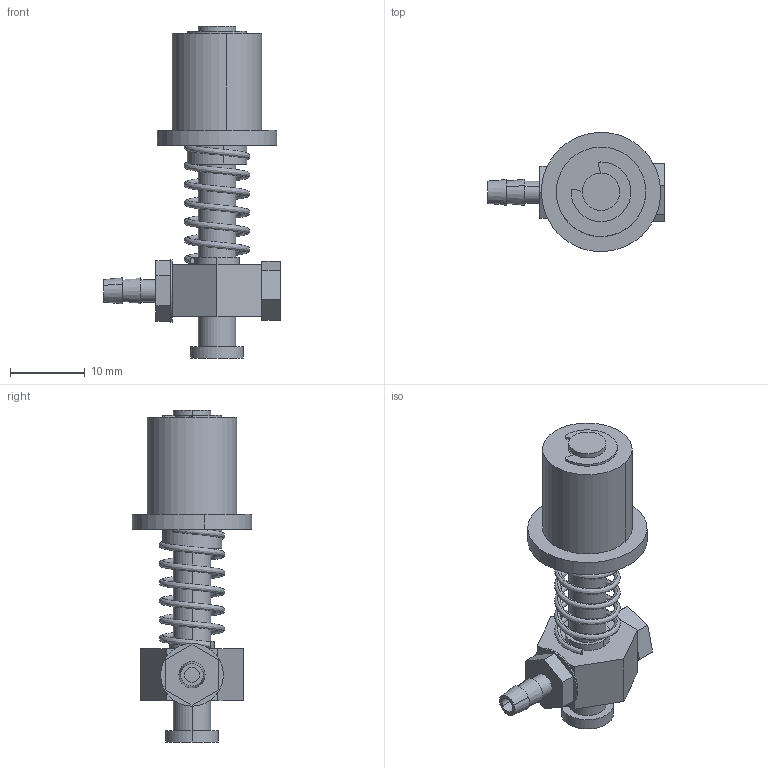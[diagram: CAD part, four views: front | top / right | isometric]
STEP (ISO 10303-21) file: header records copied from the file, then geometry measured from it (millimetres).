
FILE_DESCRIPTION (( 'STEP AP214' ), '1' );
FILE_NAME ('VFS-1012.STEP', '2019-11-16T00:45:51', ( '微软用户' ), ( '微软中国' ), 'SwSTEP 2.0', 'SolidWorks 2016', '' );
FILE_SCHEMA (( 'AUTOMOTIVE_DESIGN' ));
Length unit declared in the file: millimetre
Products named in the file (1): VFS-1012
Bounding box: 23.7 x 15.99 x 44.5 mm (x, y, z)
Volume: 3457 mm3; surface area: 3824.2 mm2
Topology: 8 solids, 8 shells, 131 faces, 305 edges, 202 vertices
Faces by surface type: cylinder 66, plane 54, bspline 7, cone 4
Entity records: 8582 total; most frequent: CARTESIAN_POINT 4136, ORIENTED_EDGE 610, DIRECTION 579, EDGE_CURVE 305, AXIS2_PLACEMENT_3D 217, VERTEX_POINT 202, EDGE_LOOP 153, VECTOR 145
